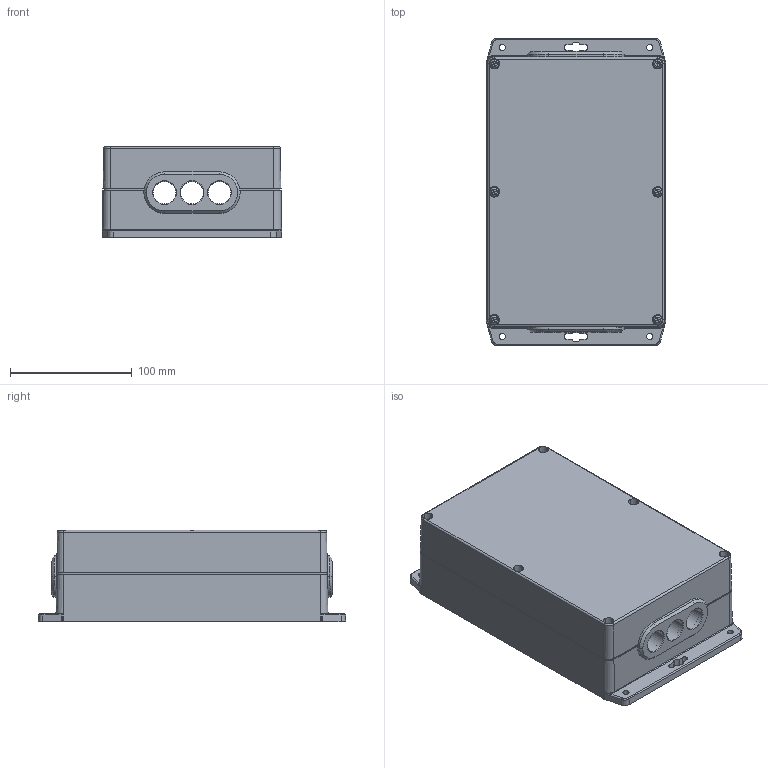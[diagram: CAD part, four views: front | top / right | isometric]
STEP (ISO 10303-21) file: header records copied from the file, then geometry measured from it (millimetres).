
FILE_DESCRIPTION (( 'STEP AP214' ), '1' );
FILE_NAME ('AF-BCR-5-3L-18.STEP', '2020-06-17T09:04:26', ( '' ), ( '' ), 'SwSTEP 2.0', 'SolidWorks 2020', '' );
FILE_SCHEMA (( 'AUTOMOTIVE_DESIGN' ));
Length unit declared in the file: millimetre
Products named in the file (4): GH157597.0003; AF-BCR-5-3L-18; Schraube; Blende_2_BCR
Assembly tree (9 placements, depth 2):
  AF-BCR-5-3L-18
    GH157597.0003
    Schraube  x6
    Blende_2_BCR  x2
Bounding box: 147.36 x 252 x 75 mm (x, y, z)
Volume: 16919.3 mm3; surface area: 283503.9 mm2
Topology: 8 solids, 22 shells, 1203 faces, 3127 edges, 2006 vertices
Faces by surface type: plane 478, cylinder 358, cone 265, torus 72, sphere 18, bspline 12
Entity records: 43613 total; most frequent: CARTESIAN_POINT 22688, ORIENTED_EDGE 5440, EDGE_CURVE 2738, DIRECTION 2449, B_SPLINE_CURVE_WITH_KNOTS 2336, VERTEX_POINT 1781, EDGE_LOOP 1165, AXIS2_PLACEMENT_3D 1145
